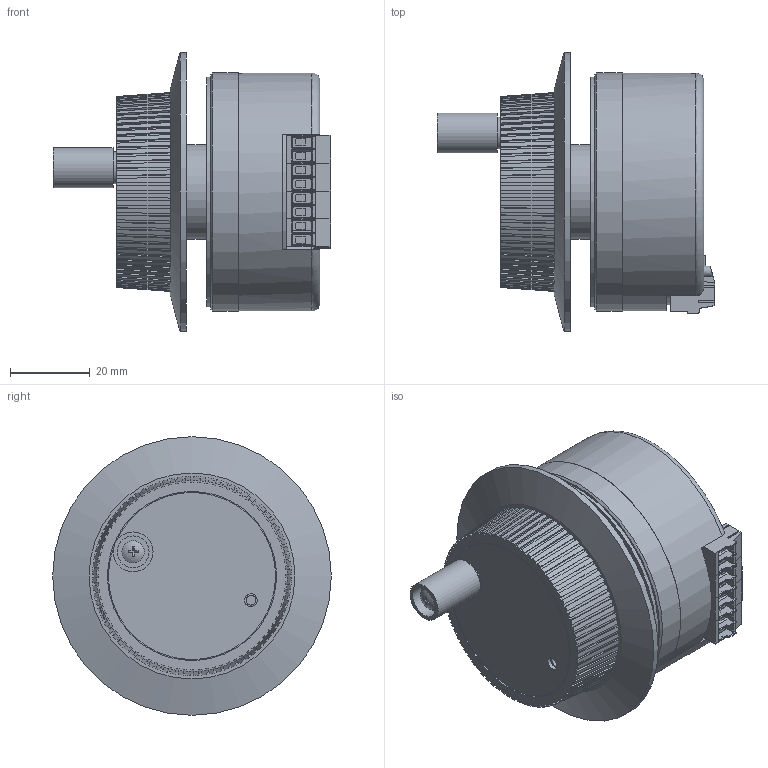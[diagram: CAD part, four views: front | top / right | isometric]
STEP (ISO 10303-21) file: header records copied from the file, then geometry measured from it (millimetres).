
FILE_DESCRIPTION(/* description */ ('MR190 Serie'),/* implementation_level */ '2;1');
FILE_NAME(/* name */ 'C:\Users\CAD-3\Desktop\9100.00.017C_MR190_Handy-Pulser.stp',/* time_stamp */ '2017-11-13T07:19:45+01:00',/* author */ ('CAD-3'),/* organization */ (''),/* preprocessor_version */ 'ST-DEVELOPER v16.13',/* originating_system */ 'Autodesk Inventor 2018',/* authorisation */ '');
FILE_SCHEMA (('AUTOMOTIVE_DESIGN { 1 0 10303 214 3 1 1 }'));
Length unit declared in the file: millimetre
Products named in the file (27): 9350.01.12x; 6099.25.110C; 0408.04.005; 6099.24.937; 6099.08.869; 6099.25.115; 6099.25.114A; 6099.25.113; 0343.01.016; 6099.25.111; 6099.25.112; 0311.10.024; 0311.10.023; 0311.10.019; 0305.13.010; 6099.24.048; 0307.01.040; 6099.22.213; 0312.10.012; 6099.25.443; pt_1.5-2-pvh-3.5; 0306.06.034; 6099.25.120; 6099.25.121; 6099.25.122; 6099.25.123; 6099.25.124
Assembly tree (39 placements, depth 2):
  9350.01.12x
    6099.25.110C
    0408.04.005
    6099.24.937
    6099.08.869
    6099.25.115
    6099.25.114A
    6099.25.113
    0343.01.016
    6099.25.111
    0307.01.040  x3
    6099.25.112
    0311.10.024
    0311.10.023  x4
    0306.06.034  x3
    0311.10.019  x2
    0305.13.010  x2
    6099.24.048
    6099.22.213
    0312.10.012  x2
    6099.25.443
    pt_1.5-2-pvh-3.5  x4
    6099.25.120
    6099.25.121
    6099.25.122
    6099.25.123
    6099.25.124
Bounding box: 69.7 x 70 x 70 mm (x, y, z)
Volume: 71774.5 mm3; surface area: 65693.6 mm2
Topology: 39 solids, 39 shells, 2540 faces, 6920 edges, 4533 vertices
Faces by surface type: plane 1689, cylinder 568, cone 217, torus 45, bspline 12, sphere 9
Full cylindrical faces by diameter (mm): 0.457 x4, 1 x8, 1.3 x16, 1.5 x17, 2.013 x5, 2.459 x15, 2.5 x5, 2.9 x8, 3 x14, 3.2 x4, 3.5 x2, 4 x7, 4.2 x1, 5.3 x1, 5.5 x3, 5.6 x3, 6 x3, 6.3 x1, 7.2 x1, 7.5 x2, 8 x10, 8.4 x1, 8.5 x1, 9 x1, 9.55 x1, 10 x1, 12 x1, 12.3 x1, 12.4 x1, 12.48 x2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
Entity records: 54478 total; most frequent: CARTESIAN_POINT 11054, DIRECTION 8637, ORIENTED_EDGE 8480, EDGE_CURVE 4240, LINE 3071, VECTOR 3071, VERTEX_POINT 2898, AXIS2_PLACEMENT_3D 2783
